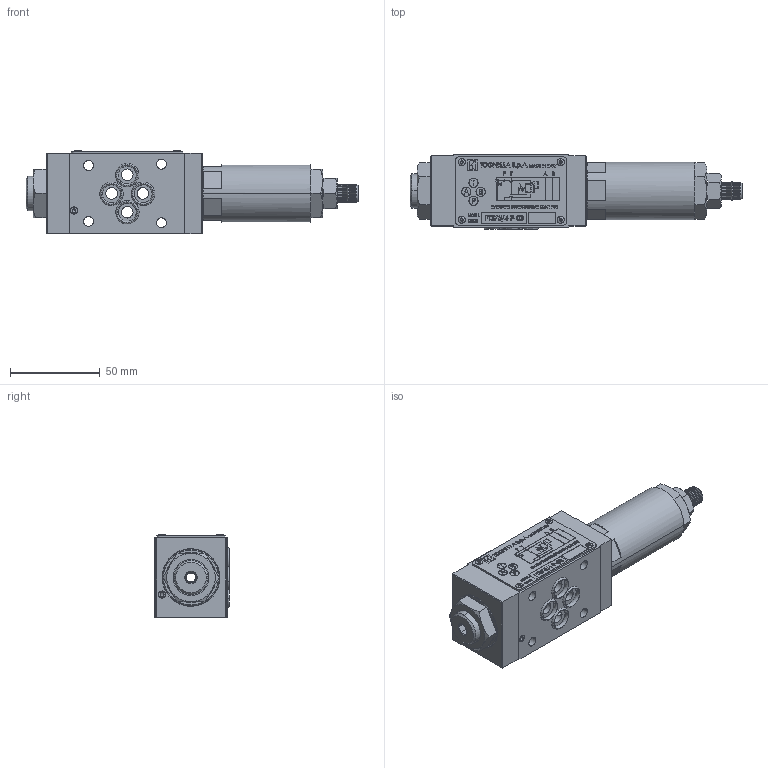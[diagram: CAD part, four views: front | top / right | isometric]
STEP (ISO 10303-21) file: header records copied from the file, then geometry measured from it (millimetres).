
FILE_DESCRIPTION (( 'STEP AP214' ), '1' );
FILE_NAME ('ASSIEME 375-4-P-03.STEP', '2019-12-03T13:55:14', ( '' ), ( '' ), 'SwSTEP 2.0', 'SolidWorks 2018', '' );
FILE_SCHEMA (( 'AUTOMOTIVE_DESIGN' ));
Length unit declared in the file: millimetre
Products named in the file (1): ASSIEME 375-4-P-03
Bounding box: 184.68 x 41.32 x 46.66 mm (x, y, z)
Surface area: 37107.8 mm2 (no closed solid volume)
Topology: 0 solids, 67 shells, 751 faces, 3625 edges, 2845 vertices
Faces by surface type: plane 412, cone 121, cylinder 102, bspline 102, sphere 8, torus 6
Entity records: 56668 total; most frequent: CARTESIAN_POINT 21811, ORIENTED_EDGE 4892, DIRECTION 4634, EDGE_CURVE 3625, VERTEX_POINT 2845, LINE 2382, VECTOR 2382, AXIS2_PLACEMENT_3D 1126
